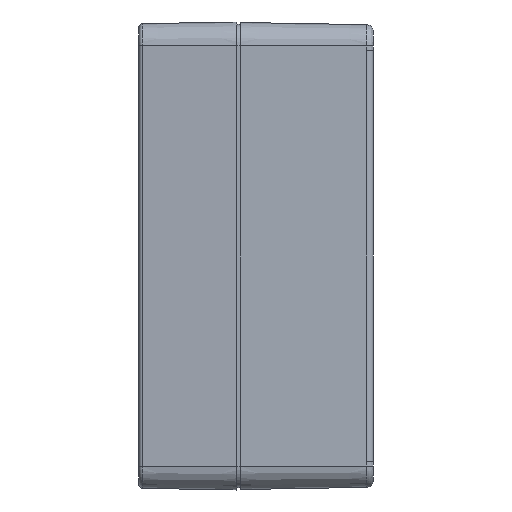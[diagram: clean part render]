
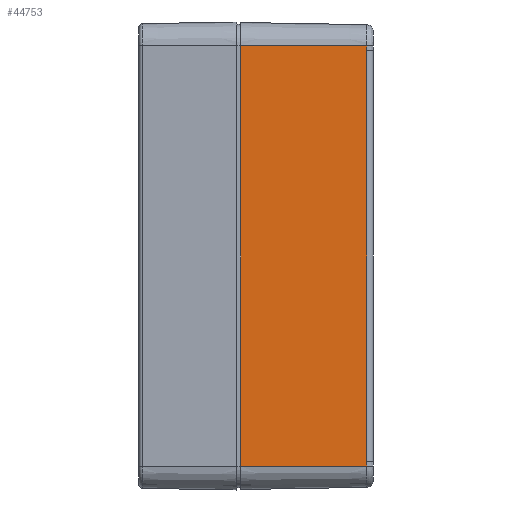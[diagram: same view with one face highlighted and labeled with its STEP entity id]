
A CAD part, left-side view. The second image highlights one B-rep face of the part: STEP entity #44753.
In plain terms, the highlighted planar face has unit normal (-1, -0.018, 0).
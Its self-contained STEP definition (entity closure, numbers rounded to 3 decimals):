
#586 = CARTESIAN_POINT ( 'NONE',  ( -119.119, -33.281, 53.019 ) ) ;
#1858 = EDGE_CURVE ( 'NONE', #44000, #7525, #41931, .T. ) ;
#2094 = CARTESIAN_POINT ( 'NONE',  ( -119.683, -1., 53.85 ) ) ;
#2614 = VERTEX_POINT ( 'NONE', #21957 ) ;
#4194 = CARTESIAN_POINT ( 'NONE',  ( -119.7, 0., 53.85 ) ) ;
#4321 = DIRECTION ( 'NONE',  ( -0.017, 1., 0. ) ) ;
#4660 = DIRECTION ( 'NONE',  ( -1., -0.017, 0. ) ) ;
#5158 = CARTESIAN_POINT ( 'NONE',  ( -119.683, -1., 53.85 ) ) ;
#5893 = ORIENTED_EDGE ( 'NONE', *, *, #8687, .T. ) ;
#6068 = VERTEX_POINT ( 'NONE', #39112 ) ;
#7525 = VERTEX_POINT ( 'NONE', #18929 ) ;
#8687 = EDGE_CURVE ( 'NONE', #35688, #6068, #26290, .T. ) ;
#11482 = CARTESIAN_POINT ( 'NONE',  ( -119.119, -33.281, 53.85 ) ) ;
#12906 = AXIS2_PLACEMENT_3D ( 'NONE', #45441, #4660, #21045 ) ;
#12924 = CARTESIAN_POINT ( 'NONE',  ( -119.119, -33.296, 53.85 ) ) ;
#12985 = EDGE_CURVE ( 'NONE', #35688, #7525, #29026, .T. ) ;
#13403 = ORIENTED_EDGE ( 'NONE', *, *, #12985, .F. ) ;
#13622 = VECTOR ( 'NONE', #4321, 1000. ) ;
#14702 = CARTESIAN_POINT ( 'NONE',  ( -119.119, -33.295, -53.435 ) ) ;
#14971 = DIRECTION ( 'NONE',  ( 0., 0., 1. ) ) ;
#15225 = CARTESIAN_POINT ( 'NONE',  ( -119.119, -33.281, 52.604 ) ) ;
#16325 = EDGE_LOOP ( 'NONE', ( #30680, #31243, #13403, #5893, #51593, #40926 ) ) ;
#16664 = B_SPLINE_CURVE_WITH_KNOTS ( 'NONE', 3,
 ( #41620, #586, #49897, #12924 ),
 .UNSPECIFIED., .F., .F.,
 ( 4, 4 ),
 ( 0., 0.001 ),
 .UNSPECIFIED. ) ;
#17509 = DIRECTION ( 'NONE',  ( 0., 0., -1. ) ) ;
#18929 = CARTESIAN_POINT ( 'NONE',  ( -119.683, -1., -53.85 ) ) ;
#21045 = DIRECTION ( 'NONE',  ( 0.017, -1., 0. ) ) ;
#21957 = CARTESIAN_POINT ( 'NONE',  ( -119.119, -33.296, 53.85 ) ) ;
#24373 = CARTESIAN_POINT ( 'NONE',  ( -119.119, -33.296, -53.85 ) ) ;
#26290 = B_SPLINE_CURVE_WITH_KNOTS ( 'NONE', 3,
 ( #51446, #14702, #51708, #31079 ),
 .UNSPECIFIED., .F., .F.,
 ( 4, 4 ),
 ( 0., 0.001 ),
 .UNSPECIFIED. ) ;
#29026 = LINE ( 'NONE', #49637, #13622 ) ;
#29102 = FACE_OUTER_BOUND ( 'NONE', #16325, .T. ) ;
#30680 = ORIENTED_EDGE ( 'NONE', *, *, #43103, .T. ) ;
#31079 = CARTESIAN_POINT ( 'NONE',  ( -119.119, -33.281, -52.604 ) ) ;
#31243 = ORIENTED_EDGE ( 'NONE', *, *, #1858, .T. ) ;
#31616 = LINE ( 'NONE', #11482, #50592 ) ;
#33855 = VERTEX_POINT ( 'NONE', #15225 ) ;
#35688 = VERTEX_POINT ( 'NONE', #24373 ) ;
#37233 = VECTOR ( 'NONE', #17509, 1000. ) ;
#39112 = CARTESIAN_POINT ( 'NONE',  ( -119.119, -33.281, -52.604 ) ) ;
#40926 = ORIENTED_EDGE ( 'NONE', *, *, #48792, .T. ) ;
#41055 = VECTOR ( 'NONE', #48961, 1000. ) ;
#41480 = LINE ( 'NONE', #4194, #41055 ) ;
#41620 = CARTESIAN_POINT ( 'NONE',  ( -119.119, -33.281, 52.604 ) ) ;
#41700 = PLANE ( 'NONE',  #12906 ) ;
#41931 = LINE ( 'NONE', #5158, #37233 ) ;
#43103 = EDGE_CURVE ( 'NONE', #2614, #44000, #41480, .T. ) ;
#44000 = VERTEX_POINT ( 'NONE', #2094 ) ;
#44753 = ADVANCED_FACE ( 'NONE', ( #29102 ), #41700, .T. ) ;
#45441 = CARTESIAN_POINT ( 'NONE',  ( -119.7, 0., 53.85 ) ) ;
#45456 = EDGE_CURVE ( 'NONE', #6068, #33855, #31616, .T. ) ;
#48792 = EDGE_CURVE ( 'NONE', #33855, #2614, #16664, .T. ) ;
#48961 = DIRECTION ( 'NONE',  ( -0.017, 1., 0. ) ) ;
#49637 = CARTESIAN_POINT ( 'NONE',  ( -119.7, 0., -53.85 ) ) ;
#49897 = CARTESIAN_POINT ( 'NONE',  ( -119.119, -33.295, 53.435 ) ) ;
#50592 = VECTOR ( 'NONE', #14971, 1000. ) ;
#51446 = CARTESIAN_POINT ( 'NONE',  ( -119.119, -33.296, -53.85 ) ) ;
#51593 = ORIENTED_EDGE ( 'NONE', *, *, #45456, .T. ) ;
#51708 = CARTESIAN_POINT ( 'NONE',  ( -119.119, -33.281, -53.019 ) ) ;
